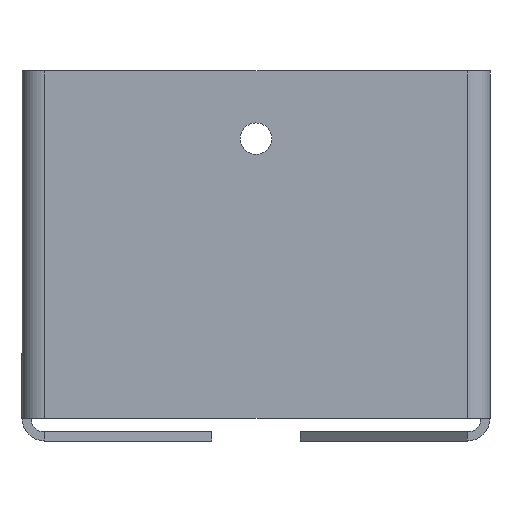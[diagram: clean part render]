
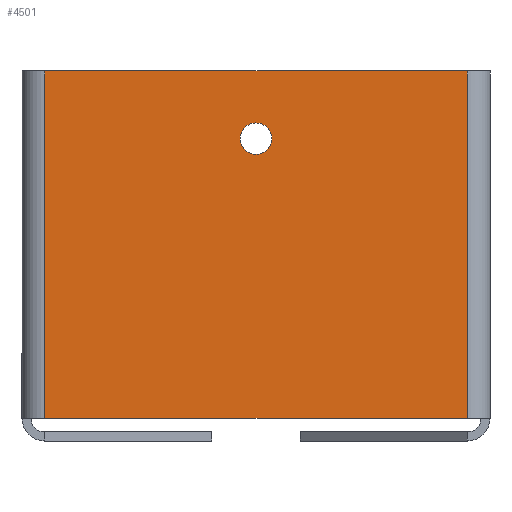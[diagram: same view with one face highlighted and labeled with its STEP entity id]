
A CAD part, front view. The second image highlights one B-rep face of the part: STEP entity #4501.
In plain terms, the highlighted planar face has unit normal (0, -1, 0).
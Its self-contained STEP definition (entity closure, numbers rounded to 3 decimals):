
#2 = CARTESIAN_POINT ( 'NONE',  ( 220., 0., 21.5 ) ) ;
#46 = CARTESIAN_POINT ( 'NONE',  ( 220., 0., 28.5 ) ) ;
#72 = VECTOR ( 'NONE', #1154, 1000. ) ;
#169 = LINE ( 'NONE', #2060, #4329 ) ;
#190 = EDGE_CURVE ( 'NONE', #2931, #4026, #2138, .T. ) ;
#211 = EDGE_LOOP ( 'NONE', ( #746, #3106 ) ) ;
#225 = CIRCLE ( 'NONE', #1491, 3.5 ) ;
#228 = DIRECTION ( 'NONE',  ( 0., -1., 0. ) ) ;
#334 = ORIENTED_EDGE ( 'NONE', *, *, #190, .T. ) ;
#632 = CARTESIAN_POINT ( 'NONE',  ( 173.142, 0., 40. ) ) ;
#746 = ORIENTED_EDGE ( 'NONE', *, *, #2788, .T. ) ;
#940 = CARTESIAN_POINT ( 'NONE',  ( 220., 0., 25. ) ) ;
#968 = DIRECTION ( 'NONE',  ( 0., 0., -1. ) ) ;
#982 = DIRECTION ( 'NONE',  ( 1., 0., 0. ) ) ;
#993 = EDGE_CURVE ( 'NONE', #2931, #3784, #4468, .T. ) ;
#1016 = CARTESIAN_POINT ( 'NONE',  ( 220., 0., 25. ) ) ;
#1055 = CIRCLE ( 'NONE', #1204, 3.5 ) ;
#1154 = DIRECTION ( 'NONE',  ( 1., 0., 0. ) ) ;
#1204 = AXIS2_PLACEMENT_3D ( 'NONE', #1016, #1687, #3216 ) ;
#1417 = VERTEX_POINT ( 'NONE', #3942 ) ;
#1466 = EDGE_LOOP ( 'NONE', ( #3326, #4257, #334, #4486 ) ) ;
#1468 = FACE_OUTER_BOUND ( 'NONE', #1466, .T. ) ;
#1491 = AXIS2_PLACEMENT_3D ( 'NONE', #940, #4534, #2034 ) ;
#1504 = VERTEX_POINT ( 'NONE', #46 ) ;
#1687 = DIRECTION ( 'NONE',  ( 0., 1., 0. ) ) ;
#1733 = CARTESIAN_POINT ( 'NONE',  ( 266.858, 0., 0. ) ) ;
#2034 = DIRECTION ( 'NONE',  ( 0., 0., 1. ) ) ;
#2060 = CARTESIAN_POINT ( 'NONE',  ( 0., 0., -37. ) ) ;
#2138 = LINE ( 'NONE', #3155, #3682 ) ;
#2150 = EDGE_CURVE ( 'NONE', #3784, #1417, #2260, .T. ) ;
#2239 = EDGE_CURVE ( 'NONE', #3627, #1504, #1055, .T. ) ;
#2260 = LINE ( 'NONE', #1733, #2832 ) ;
#2333 = CARTESIAN_POINT ( 'NONE',  ( 266.858, 0., 40. ) ) ;
#2785 = DIRECTION ( 'NONE',  ( 0., 0., -1. ) ) ;
#2788 = EDGE_CURVE ( 'NONE', #1504, #3627, #225, .T. ) ;
#2832 = VECTOR ( 'NONE', #2785, 1000. ) ;
#2856 = CARTESIAN_POINT ( 'NONE',  ( 0., 0., 40. ) ) ;
#2931 = VERTEX_POINT ( 'NONE', #632 ) ;
#3106 = ORIENTED_EDGE ( 'NONE', *, *, #2239, .T. ) ;
#3155 = CARTESIAN_POINT ( 'NONE',  ( 173.142, 0., 0. ) ) ;
#3212 = PLANE ( 'NONE',  #3301 ) ;
#3216 = DIRECTION ( 'NONE',  ( 0., 0., 1. ) ) ;
#3301 = AXIS2_PLACEMENT_3D ( 'NONE', #3899, #228, #4223 ) ;
#3326 = ORIENTED_EDGE ( 'NONE', *, *, #2150, .F. ) ;
#3443 = EDGE_CURVE ( 'NONE', #4026, #1417, #169, .T. ) ;
#3560 = CARTESIAN_POINT ( 'NONE',  ( 173.142, 0., -37. ) ) ;
#3627 = VERTEX_POINT ( 'NONE', #2 ) ;
#3682 = VECTOR ( 'NONE', #968, 1000. ) ;
#3784 = VERTEX_POINT ( 'NONE', #2333 ) ;
#3899 = CARTESIAN_POINT ( 'NONE',  ( 0., 0., 0. ) ) ;
#3942 = CARTESIAN_POINT ( 'NONE',  ( 266.858, 0., -37. ) ) ;
#4026 = VERTEX_POINT ( 'NONE', #3560 ) ;
#4198 = FACE_BOUND ( 'NONE', #211, .T. ) ;
#4223 = DIRECTION ( 'NONE',  ( 0., 0., -1. ) ) ;
#4257 = ORIENTED_EDGE ( 'NONE', *, *, #993, .F. ) ;
#4329 = VECTOR ( 'NONE', #982, 1000. ) ;
#4468 = LINE ( 'NONE', #2856, #72 ) ;
#4486 = ORIENTED_EDGE ( 'NONE', *, *, #3443, .T. ) ;
#4501 = ADVANCED_FACE ( 'NONE', ( #1468, #4198 ), #3212, .T. ) ;
#4534 = DIRECTION ( 'NONE',  ( 0., 1., 0. ) ) ;
